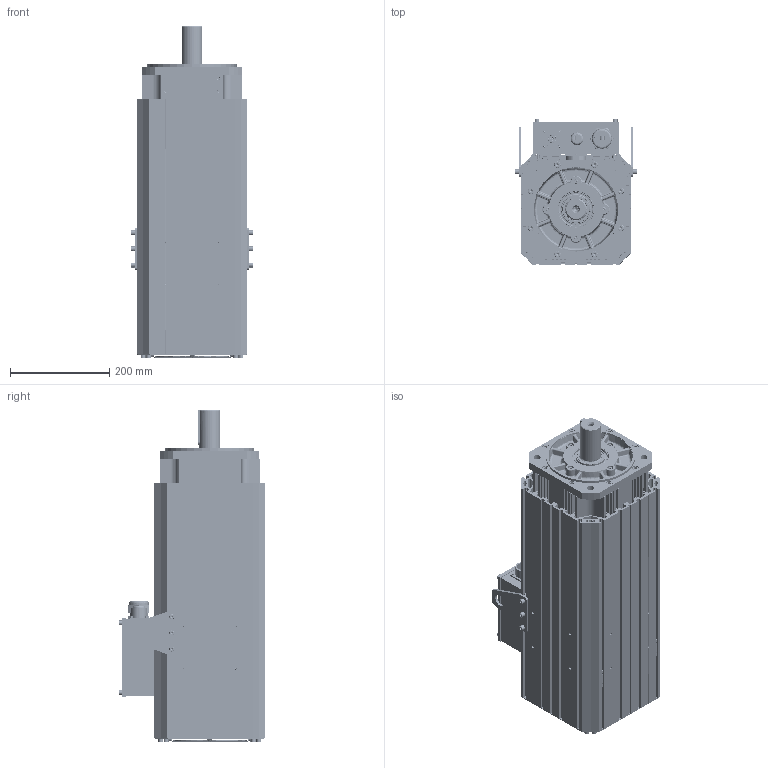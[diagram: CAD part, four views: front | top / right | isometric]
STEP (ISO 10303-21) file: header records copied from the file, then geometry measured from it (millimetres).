
FILE_DESCRIPTION (( 'STEP AP214' ), '1' );
FILE_NAME ('VM7-M20D-01515-D2FNH.STEP', '2022-04-02T01:49:42', ( '' ), ( '' ), 'SwSTEP 2.0', 'SolidWorks 2014', '' );
FILE_SCHEMA (( 'AUTOMOTIVE_DESIGN' ));
Length unit declared in the file: millimetre
Products named in the file (3): 俋褲ㄗVM7-M20Dㄘ; 翋极ㄗVM7-M20Dㄘ; VM7-M20D-01515-D2FNH
Assembly tree (2 placements, depth 2):
  VM7-M20D-01515-D2FNH
    翋极ㄗVM7-M20Dㄘ
    俋褲ㄗVM7-M20Dㄘ
Bounding box: 246.2 x 294.7 x 668 mm (x, y, z)
Volume: 2134379.2 mm3; surface area: 3009892.8 mm2
Topology: 45 solids, 183 shells, 5660 faces, 14472 edges, 9117 vertices
Faces by surface type: plane 3221, cylinder 1323, cone 587, bspline 529
Entity records: 187119 total; most frequent: CARTESIAN_POINT 50233, ORIENTED_EDGE 28442, DIRECTION 27688, EDGE_CURVE 14230, AXIS2_PLACEMENT_3D 9527, VERTEX_POINT 9117, VECTOR 8634, LINE 8634
